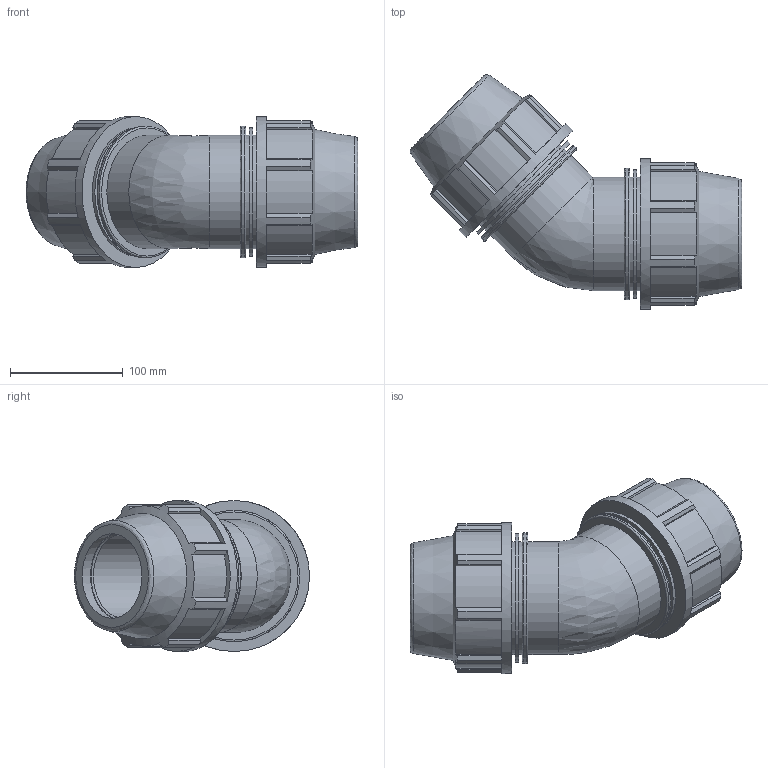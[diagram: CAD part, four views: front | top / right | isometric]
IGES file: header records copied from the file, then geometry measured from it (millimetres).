
Global section: file name: 0706060750A.ipt; native system: Autodesk Inventor 2015; preprocessor: unknown; author: Кирилл,,11,0; organization: 20170224.180708; date: 20170608.042454; units: millimetre
Bounding box: 294.52 x 208.52 x 134 mm (x, y, z)
Volume: 1648148.7 mm3; surface area: 227495.8 mm2
Topology: 1 solids, 1 shells, 140 faces, 388 edges, 262 vertices
Faces by surface type: plane 94, cylinder 28, revolution 14, cone 4
Full cylindrical faces by diameter (mm): 100.5 x6, 114.248 x2, 116.58 x2, 134 x2
